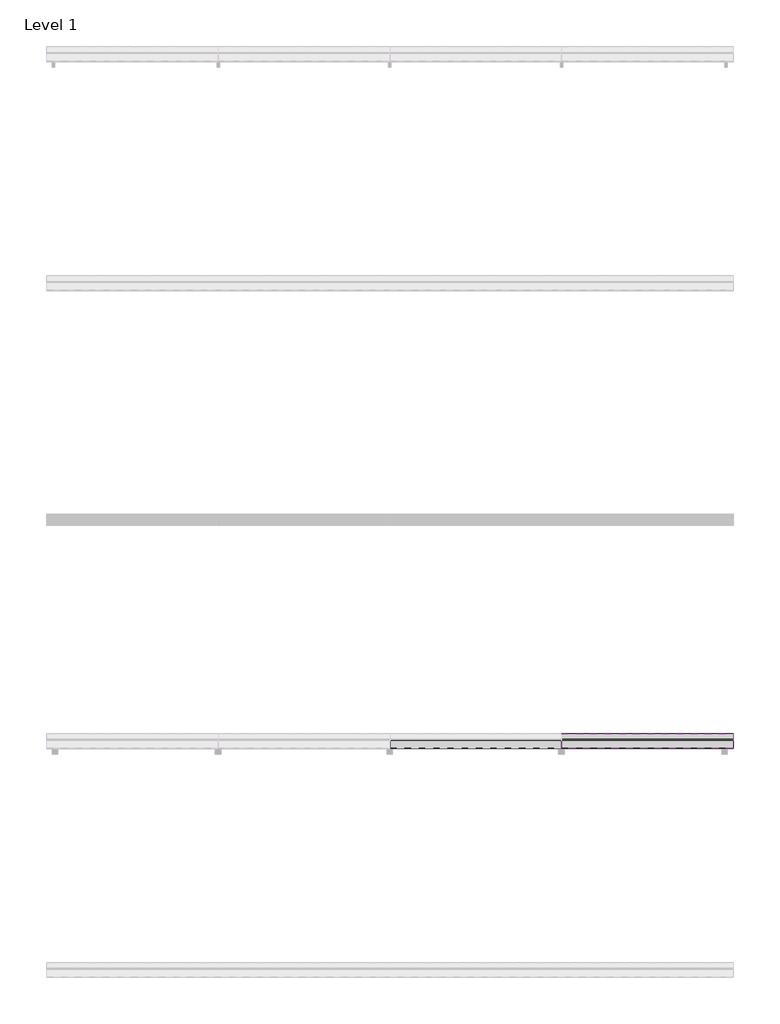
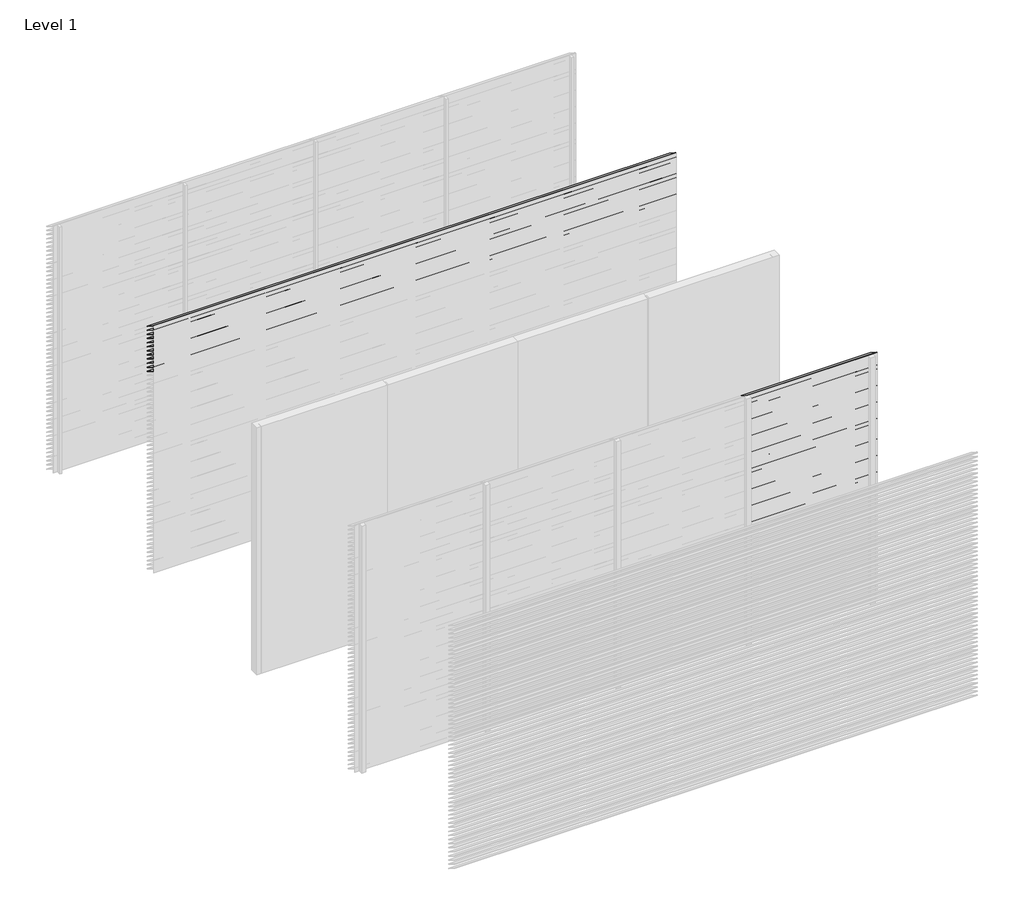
# One storey, part 7 of 13: 96 proxies.
"""IFC4 building model written with IfcOpenShell, lengths in millimetres."""

from ifc_helpers import new_model, si_unit, frame, origin, place, context, project, spatial, polyline, outline, extrude, element, save

model = new_model("IFC4")

# Units and contexts
model_context = context("Model", 3, world=origin())
ifc_project = project(units=[si_unit("LENGTHUNIT", "METRE", prefix="MILLI")], contexts=[model_context])

# Site, building, storey
site = spatial("IfcSite", under=ifc_project)
building = spatial("IfcBuilding", under=site)
storey = spatial("IfcBuildingStorey", under=building, Name="Level 1", Elevation=0.0)

# Proxies
placement = place(None, origin())
element("IfcBuildingElementProxy", 1, Name="Wall Sweeps", at=placement, inside=storey, context=model_context, shape_type="SweptSolid", body=[
    extrude(outline(polyline([(-7995.0, 3000.0), (-7995.0, 2998.0), (-7868.0, 2919.0), (-7868.0, 2913.0), (-7997.0, 2993.2440945), (-7997.0, 3000.0), (-7995.0, 3000.0)])), frame((0.0, 0.0, 0.0), z_axis=(1.0, 0.0, 0.0), x_axis=(0.0, 1.0, 0.0)), (0.0, 0.0, 1.0), 6000.0),
])
element("IfcBuildingElementProxy", 2, Name="Wall Sweeps", at=placement, inside=storey, context=model_context, shape_type="SweptSolid", body=[
    extrude(outline(polyline([(-7995.0, 2950.0), (-7995.0, 2948.0), (-7868.0, 2869.0), (-7868.0, 2863.0), (-7997.0, 2943.2440945), (-7997.0, 2950.0), (-7995.0, 2950.0)])), frame((0.0, 0.0, 0.0), z_axis=(1.0, 0.0, 0.0), x_axis=(0.0, 1.0, 0.0)), (0.0, 0.0, 1.0), 6000.0),
])
element("IfcBuildingElementProxy", 3, Name="Wall Sweeps", at=placement, inside=storey, context=model_context, shape_type="SweptSolid", body=[
    extrude(outline(polyline([(-7995.0, 2900.0), (-7995.0, 2898.0), (-7868.0, 2819.0), (-7868.0, 2813.0), (-7997.0, 2893.2440945), (-7997.0, 2900.0), (-7995.0, 2900.0)])), frame((0.0, 0.0, 0.0), z_axis=(1.0, 0.0, 0.0), x_axis=(0.0, 1.0, 0.0)), (0.0, 0.0, 1.0), 6000.0),
])
element("IfcBuildingElementProxy", 4, Name="Wall Sweeps", at=placement, inside=storey, context=model_context, shape_type="SweptSolid", body=[
    extrude(outline(polyline([(-7995.0, 2850.0), (-7995.0, 2848.0), (-7868.0, 2769.0), (-7868.0, 2763.0), (-7997.0, 2843.2440945), (-7997.0, 2850.0), (-7995.0, 2850.0)])), frame((0.0, 0.0, 0.0), z_axis=(1.0, 0.0, 0.0), x_axis=(0.0, 1.0, 0.0)), (0.0, 0.0, 1.0), 6000.0),
])
element("IfcBuildingElementProxy", 5, Name="Wall Sweeps", at=placement, inside=storey, context=model_context, shape_type="SweptSolid", body=[
    extrude(outline(polyline([(-7995.0, 2800.0), (-7995.0, 2798.0), (-7868.0, 2719.0), (-7868.0, 2713.0), (-7997.0, 2793.2440945), (-7997.0, 2800.0), (-7995.0, 2800.0)])), frame((0.0, 0.0, 0.0), z_axis=(1.0, 0.0, 0.0), x_axis=(0.0, 1.0, 0.0)), (0.0, 0.0, 1.0), 6000.0),
])
element("IfcBuildingElementProxy", 6, Name="Wall Sweeps", at=placement, inside=storey, context=model_context, shape_type="SweptSolid", body=[
    extrude(outline(polyline([(-7995.0, 2750.0), (-7995.0, 2748.0), (-7868.0, 2669.0), (-7868.0, 2663.0), (-7997.0, 2743.2440945), (-7997.0, 2750.0), (-7995.0, 2750.0)])), frame((0.0, 0.0, 0.0), z_axis=(1.0, 0.0, 0.0), x_axis=(0.0, 1.0, 0.0)), (0.0, 0.0, 1.0), 6000.0),
])
element("IfcBuildingElementProxy", 7, Name="Wall Sweeps", at=placement, inside=storey, context=model_context, shape_type="SweptSolid", body=[
    extrude(outline(polyline([(-7995.0, 2700.0), (-7995.0, 2698.0), (-7868.0, 2619.0), (-7868.0, 2613.0), (-7997.0, 2693.2440945), (-7997.0, 2700.0), (-7995.0, 2700.0)])), frame((0.0, 0.0, 0.0), z_axis=(1.0, 0.0, 0.0), x_axis=(0.0, 1.0, 0.0)), (0.0, 0.0, 1.0), 6000.0),
])
element("IfcBuildingElementProxy", 8, Name="Wall Sweeps", at=placement, inside=storey, context=model_context, shape_type="SweptSolid", body=[
    extrude(outline(polyline([(-7995.0, 2650.0), (-7995.0, 2648.0), (-7868.0, 2569.0), (-7868.0, 2563.0), (-7997.0, 2643.2440945), (-7997.0, 2650.0), (-7995.0, 2650.0)])), frame((0.0, 0.0, 0.0), z_axis=(1.0, 0.0, 0.0), x_axis=(0.0, 1.0, 0.0)), (0.0, 0.0, 1.0), 6000.0),
])
element("IfcBuildingElementProxy", 9, Name="Wall Sweeps", at=placement, inside=storey, context=model_context, shape_type="SweptSolid", body=[
    extrude(outline(polyline([(-7995.0, 2600.0), (-7995.0, 2598.0), (-7868.0, 2519.0), (-7868.0, 2513.0), (-7997.0, 2593.2440945), (-7997.0, 2600.0), (-7995.0, 2600.0)])), frame((0.0, 0.0, 0.0), z_axis=(1.0, 0.0, 0.0), x_axis=(0.0, 1.0, 0.0)), (0.0, 0.0, 1.0), 6000.0),
])
element("IfcBuildingElementProxy", 10, Name="Wall Sweeps", at=placement, inside=storey, context=model_context, shape_type="SweptSolid", body=[
    extrude(outline(polyline([(-7995.0, 2550.0), (-7995.0, 2548.0), (-7868.0, 2469.0), (-7868.0, 2463.0), (-7997.0, 2543.2440945), (-7997.0, 2550.0), (-7995.0, 2550.0)])), frame((0.0, 0.0, 0.0), z_axis=(1.0, 0.0, 0.0), x_axis=(0.0, 1.0, 0.0)), (0.0, 0.0, 1.0), 6000.0),
])
element("IfcBuildingElementProxy", 11, Name="Wall Sweeps", at=placement, inside=storey, context=model_context, shape_type="SweptSolid", body=[
    extrude(outline(polyline([(-7995.0, 2500.0), (-7995.0, 2498.0), (-7868.0, 2419.0), (-7868.0, 2413.0), (-7997.0, 2493.2440945), (-7997.0, 2500.0), (-7995.0, 2500.0)])), frame((0.0, 0.0, 0.0), z_axis=(1.0, 0.0, 0.0), x_axis=(0.0, 1.0, 0.0)), (0.0, 0.0, 1.0), 6000.0),
])
element("IfcBuildingElementProxy", 12, Name="Wall Sweeps", at=placement, inside=storey, context=model_context, shape_type="SweptSolid", body=[
    extrude(outline(polyline([(-7995.0, 2450.0), (-7995.0, 2448.0), (-7868.0, 2369.0), (-7868.0, 2363.0), (-7997.0, 2443.2440945), (-7997.0, 2450.0), (-7995.0, 2450.0)])), frame((0.0, 0.0, 0.0), z_axis=(1.0, 0.0, 0.0), x_axis=(0.0, 1.0, 0.0)), (0.0, 0.0, 1.0), 6000.0),
])
element("IfcBuildingElementProxy", 13, Name="Wall Sweeps", at=placement, inside=storey, context=model_context, shape_type="SweptSolid", body=[
    extrude(outline(polyline([(-11995.0, 1200.0), (-11995.0, 1198.0), (-11868.0, 1119.0), (-11868.0, 1113.0), (-11997.0, 1193.2440945), (-11997.0, 1200.0), (-11995.0, 1200.0)])), frame((3000.0, 0.0, 0.0), z_axis=(1.0, 0.0, 0.0), x_axis=(0.0, 1.0, 0.0)), (0.0, 0.0, 1.0), 1500.0),
])
element("IfcBuildingElementProxy", 14, Name="Wall Sweeps", at=placement, inside=storey, context=model_context, shape_type="SweptSolid", body=[
    extrude(outline(polyline([(-11995.0, 1150.0), (-11995.0, 1148.0), (-11868.0, 1069.0), (-11868.0, 1063.0), (-11997.0, 1143.2440945), (-11997.0, 1150.0), (-11995.0, 1150.0)])), frame((3000.0, 0.0, 0.0), z_axis=(1.0, 0.0, 0.0), x_axis=(0.0, 1.0, 0.0)), (0.0, 0.0, 1.0), 1500.0),
])
element("IfcBuildingElementProxy", 15, Name="Wall Sweeps", at=placement, inside=storey, context=model_context, shape_type="SweptSolid", body=[
    extrude(outline(polyline([(-11995.0, 1100.0), (-11995.0, 1098.0), (-11868.0, 1019.0), (-11868.0, 1013.0), (-11997.0, 1093.2440945), (-11997.0, 1100.0), (-11995.0, 1100.0)])), frame((3000.0, 0.0, 0.0), z_axis=(1.0, 0.0, 0.0), x_axis=(0.0, 1.0, 0.0)), (0.0, 0.0, 1.0), 1500.0),
])
element("IfcBuildingElementProxy", 16, Name="Wall Sweeps", at=placement, inside=storey, context=model_context, shape_type="SweptSolid", body=[
    extrude(outline(polyline([(-11995.0, 1050.0), (-11995.0, 1048.0), (-11868.0, 969.0), (-11868.0, 963.0), (-11997.0, 1043.2440945), (-11997.0, 1050.0), (-11995.0, 1050.0)])), frame((3000.0, 0.0, 0.0), z_axis=(1.0, 0.0, 0.0), x_axis=(0.0, 1.0, 0.0)), (0.0, 0.0, 1.0), 1500.0),
])
element("IfcBuildingElementProxy", 17, Name="Wall Sweeps", at=placement, inside=storey, context=model_context, shape_type="SweptSolid", body=[
    extrude(outline(polyline([(-11995.0, 1000.0), (-11995.0, 998.0), (-11868.0, 919.0), (-11868.0, 913.0), (-11997.0, 993.2440945), (-11997.0, 1000.0), (-11995.0, 1000.0)])), frame((3000.0, 0.0, 0.0), z_axis=(1.0, 0.0, 0.0), x_axis=(0.0, 1.0, 0.0)), (0.0, 0.0, 1.0), 1500.0),
])
element("IfcBuildingElementProxy", 18, Name="Wall Sweeps", at=placement, inside=storey, context=model_context, shape_type="SweptSolid", body=[
    extrude(outline(polyline([(-11995.0, 950.0), (-11995.0, 948.0), (-11868.0, 869.0), (-11868.0, 863.0), (-11997.0, 943.2440945), (-11997.0, 950.0), (-11995.0, 950.0)])), frame((3000.0, 0.0, 0.0), z_axis=(1.0, 0.0, 0.0), x_axis=(0.0, 1.0, 0.0)), (0.0, 0.0, 1.0), 1500.0),
])
element("IfcBuildingElementProxy", 19, Name="Wall Sweeps", at=placement, inside=storey, context=model_context, shape_type="SweptSolid", body=[
    extrude(outline(polyline([(-11995.0, 900.0), (-11995.0, 898.0), (-11868.0, 819.0), (-11868.0, 813.0), (-11997.0, 893.2440945), (-11997.0, 900.0), (-11995.0, 900.0)])), frame((3000.0, 0.0, 0.0), z_axis=(1.0, 0.0, 0.0), x_axis=(0.0, 1.0, 0.0)), (0.0, 0.0, 1.0), 1500.0),
])
element("IfcBuildingElementProxy", 20, Name="Wall Sweeps", at=placement, inside=storey, context=model_context, shape_type="SweptSolid", body=[
    extrude(outline(polyline([(-11995.0, 850.0), (-11995.0, 848.0), (-11868.0, 769.0), (-11868.0, 763.0), (-11997.0, 843.2440945), (-11997.0, 850.0), (-11995.0, 850.0)])), frame((3000.0, 0.0, 0.0), z_axis=(1.0, 0.0, 0.0), x_axis=(0.0, 1.0, 0.0)), (0.0, 0.0, 1.0), 1500.0),
])
element("IfcBuildingElementProxy", 21, Name="Wall Sweeps", at=placement, inside=storey, context=model_context, shape_type="SweptSolid", body=[
    extrude(outline(polyline([(-11995.0, 800.0), (-11995.0, 798.0), (-11868.0, 719.0), (-11868.0, 713.0), (-11997.0, 793.2440945), (-11997.0, 800.0), (-11995.0, 800.0)])), frame((3000.0, 0.0, 0.0), z_axis=(1.0, 0.0, 0.0), x_axis=(0.0, 1.0, 0.0)), (0.0, 0.0, 1.0), 1500.0),
])
element("IfcBuildingElementProxy", 22, Name="Wall Sweeps", at=placement, inside=storey, context=model_context, shape_type="SweptSolid", body=[
    extrude(outline(polyline([(-11995.0, 750.0), (-11995.0, 748.0), (-11868.0, 669.0), (-11868.0, 663.0), (-11997.0, 743.2440945), (-11997.0, 750.0), (-11995.0, 750.0)])), frame((3000.0, 0.0, 0.0), z_axis=(1.0, 0.0, 0.0), x_axis=(0.0, 1.0, 0.0)), (0.0, 0.0, 1.0), 1500.0),
])
element("IfcBuildingElementProxy", 23, Name="Wall Sweeps", at=placement, inside=storey, context=model_context, shape_type="SweptSolid", body=[
    extrude(outline(polyline([(-11995.0, 700.0), (-11995.0, 698.0), (-11868.0, 619.0), (-11868.0, 613.0), (-11997.0, 693.2440945), (-11997.0, 700.0), (-11995.0, 700.0)])), frame((3000.0, 0.0, 0.0), z_axis=(1.0, 0.0, 0.0), x_axis=(0.0, 1.0, 0.0)), (0.0, 0.0, 1.0), 1500.0),
])
element("IfcBuildingElementProxy", 24, Name="Wall Sweeps", at=placement, inside=storey, context=model_context, shape_type="SweptSolid", body=[
    extrude(outline(polyline([(-11995.0, 650.0), (-11995.0, 648.0), (-11868.0, 569.0), (-11868.0, 563.0), (-11997.0, 643.2440945), (-11997.0, 650.0), (-11995.0, 650.0)])), frame((3000.0, 0.0, 0.0), z_axis=(1.0, 0.0, 0.0), x_axis=(0.0, 1.0, 0.0)), (0.0, 0.0, 1.0), 1500.0),
])
element("IfcBuildingElementProxy", 25, Name="Wall Sweeps", at=placement, inside=storey, context=model_context, shape_type="SweptSolid", body=[
    extrude(outline(polyline([(-11995.0, 600.0), (-11995.0, 598.0), (-11868.0, 519.0), (-11868.0, 513.0), (-11997.0, 593.2440945), (-11997.0, 600.0), (-11995.0, 600.0)])), frame((3000.0, 0.0, 0.0), z_axis=(1.0, 0.0, 0.0), x_axis=(0.0, 1.0, 0.0)), (0.0, 0.0, 1.0), 1500.0),
])
element("IfcBuildingElementProxy", 26, Name="Wall Sweeps", at=placement, inside=storey, context=model_context, shape_type="SweptSolid", body=[
    extrude(outline(polyline([(-11995.0, 550.0), (-11995.0, 548.0), (-11868.0, 469.0), (-11868.0, 463.0), (-11997.0, 543.2440945), (-11997.0, 550.0), (-11995.0, 550.0)])), frame((3000.0, 0.0, 0.0), z_axis=(1.0, 0.0, 0.0), x_axis=(0.0, 1.0, 0.0)), (0.0, 0.0, 1.0), 1500.0),
])
element("IfcBuildingElementProxy", 27, Name="Wall Sweeps", at=placement, inside=storey, context=model_context, shape_type="SweptSolid", body=[
    extrude(outline(polyline([(-11995.0, 500.0), (-11995.0, 498.0), (-11868.0, 419.0), (-11868.0, 413.0), (-11997.0, 493.2440945), (-11997.0, 500.0), (-11995.0, 500.0)])), frame((3000.0, 0.0, 0.0), z_axis=(1.0, 0.0, 0.0), x_axis=(0.0, 1.0, 0.0)), (0.0, 0.0, 1.0), 1500.0),
])
element("IfcBuildingElementProxy", 28, Name="Wall Sweeps", at=placement, inside=storey, context=model_context, shape_type="SweptSolid", body=[
    extrude(outline(polyline([(-11995.0, 450.0), (-11995.0, 448.0), (-11868.0, 369.0), (-11868.0, 363.0), (-11997.0, 443.2440945), (-11997.0, 450.0), (-11995.0, 450.0)])), frame((3000.0, 0.0, 0.0), z_axis=(1.0, 0.0, 0.0), x_axis=(0.0, 1.0, 0.0)), (0.0, 0.0, 1.0), 1500.0),
])
element("IfcBuildingElementProxy", 29, Name="Wall Sweeps", at=placement, inside=storey, context=model_context, shape_type="SweptSolid", body=[
    extrude(outline(polyline([(-11995.0, 400.0), (-11995.0, 398.0), (-11868.0, 319.0), (-11868.0, 313.0), (-11997.0, 393.2440945), (-11997.0, 400.0), (-11995.0, 400.0)])), frame((3000.0, 0.0, 0.0), z_axis=(1.0, 0.0, 0.0), x_axis=(0.0, 1.0, 0.0)), (0.0, 0.0, 1.0), 1500.0),
])
element("IfcBuildingElementProxy", 30, Name="Wall Sweeps", at=placement, inside=storey, context=model_context, shape_type="SweptSolid", body=[
    extrude(outline(polyline([(-11995.0, 350.0), (-11995.0, 348.0), (-11868.0, 269.0), (-11868.0, 263.0), (-11997.0, 343.2440945), (-11997.0, 350.0), (-11995.0, 350.0)])), frame((3000.0, 0.0, 0.0), z_axis=(1.0, 0.0, 0.0), x_axis=(0.0, 1.0, 0.0)), (0.0, 0.0, 1.0), 1500.0),
])
element("IfcBuildingElementProxy", 31, Name="Wall Sweeps", at=placement, inside=storey, context=model_context, shape_type="SweptSolid", body=[
    extrude(outline(polyline([(-11995.0, 300.0), (-11995.0, 298.0), (-11868.0, 219.0), (-11868.0, 213.0), (-11997.0, 293.2440945), (-11997.0, 300.0), (-11995.0, 300.0)])), frame((3000.0, 0.0, 0.0), z_axis=(1.0, 0.0, 0.0), x_axis=(0.0, 1.0, 0.0)), (0.0, 0.0, 1.0), 1500.0),
])
element("IfcBuildingElementProxy", 32, Name="Wall Sweeps", at=placement, inside=storey, context=model_context, shape_type="SweptSolid", body=[
    extrude(outline(polyline([(-11995.0, 250.0), (-11995.0, 248.0), (-11868.0, 169.0), (-11868.0, 163.0), (-11997.0, 243.2440945), (-11997.0, 250.0), (-11995.0, 250.0)])), frame((3000.0, 0.0, 0.0), z_axis=(1.0, 0.0, 0.0), x_axis=(0.0, 1.0, 0.0)), (0.0, 0.0, 1.0), 1500.0),
])
element("IfcBuildingElementProxy", 33, Name="Wall Sweeps", at=placement, inside=storey, context=model_context, shape_type="SweptSolid", body=[
    extrude(outline(polyline([(-11995.0, 200.0), (-11995.0, 198.0), (-11868.0, 119.0), (-11868.0, 113.0), (-11997.0, 193.2440945), (-11997.0, 200.0), (-11995.0, 200.0)])), frame((3000.0, 0.0, 0.0), z_axis=(1.0, 0.0, 0.0), x_axis=(0.0, 1.0, 0.0)), (0.0, 0.0, 1.0), 1500.0),
])
element("IfcBuildingElementProxy", 34, Name="Wall Sweeps", at=placement, inside=storey, context=model_context, shape_type="SweptSolid", body=[
    extrude(outline(polyline([(-11995.0, 150.0), (-11995.0, 148.0), (-11868.0, 69.0), (-11868.0, 63.0), (-11997.0, 143.2440945), (-11997.0, 150.0), (-11995.0, 150.0)])), frame((3000.0, 0.0, 0.0), z_axis=(1.0, 0.0, 0.0), x_axis=(0.0, 1.0, 0.0)), (0.0, 0.0, 1.0), 1500.0),
])
element("IfcBuildingElementProxy", 35, Name="Wall Sweeps", at=placement, inside=storey, context=model_context, shape_type="SweptSolid", body=[
    extrude(outline(polyline([(-11995.0, 100.0), (-11995.0, 98.0), (-11868.0, 19.0), (-11868.0, 13.0), (-11997.0, 93.2440945), (-11997.0, 100.0), (-11995.0, 100.0)])), frame((3000.0, 0.0, 0.0), z_axis=(1.0, 0.0, 0.0), x_axis=(0.0, 1.0, 0.0)), (0.0, 0.0, 1.0), 1500.0),
])
element("IfcBuildingElementProxy", 36, Name="Wall Sweeps", at=placement, inside=storey, context=model_context, shape_type="SweptSolid", body=[
    extrude(outline(polyline([(-11995.0, 50.0), (-11995.0, 48.0), (-11868.0, -31.0), (-11868.0, -37.0), (-11997.0, 43.2440945), (-11997.0, 50.0), (-11995.0, 50.0)])), frame((3000.0, 0.0, 0.0), z_axis=(1.0, 0.0, 0.0), x_axis=(0.0, 1.0, 0.0)), (0.0, 0.0, 1.0), 1500.0),
])
element("IfcBuildingElementProxy", 37, Name="Wall Sweeps", at=placement, inside=storey, context=model_context, shape_type="SweptSolid", body=[
    extrude(outline(polyline([(-11995.0, 3000.0), (-11995.0, 2998.0), (-11868.0, 2919.0), (-11868.0, 2913.0), (-11997.0, 2993.2440945), (-11997.0, 3000.0), (-11995.0, 3000.0)])), frame((4500.0, 0.0, 0.0), z_axis=(1.0, 0.0, 0.0), x_axis=(0.0, 1.0, 0.0)), (0.0, 0.0, 1.0), 1500.0),
])
element("IfcBuildingElementProxy", 38, Name="Wall Sweeps", at=placement, inside=storey, context=model_context, shape_type="SweptSolid", body=[
    extrude(outline(polyline([(-11995.0, 2950.0), (-11995.0, 2948.0), (-11868.0, 2869.0), (-11868.0, 2863.0), (-11997.0, 2943.2440945), (-11997.0, 2950.0), (-11995.0, 2950.0)])), frame((4500.0, 0.0, 0.0), z_axis=(1.0, 0.0, 0.0), x_axis=(0.0, 1.0, 0.0)), (0.0, 0.0, 1.0), 1500.0),
])
element("IfcBuildingElementProxy", 39, Name="Wall Sweeps", at=placement, inside=storey, context=model_context, shape_type="SweptSolid", body=[
    extrude(outline(polyline([(-11995.0, 2900.0), (-11995.0, 2898.0), (-11868.0, 2819.0), (-11868.0, 2813.0), (-11997.0, 2893.2440945), (-11997.0, 2900.0), (-11995.0, 2900.0)])), frame((4500.0, 0.0, 0.0), z_axis=(1.0, 0.0, 0.0), x_axis=(0.0, 1.0, 0.0)), (0.0, 0.0, 1.0), 1500.0),
])
element("IfcBuildingElementProxy", 40, Name="Wall Sweeps", at=placement, inside=storey, context=model_context, shape_type="SweptSolid", body=[
    extrude(outline(polyline([(-11995.0, 2850.0), (-11995.0, 2848.0), (-11868.0, 2769.0), (-11868.0, 2763.0), (-11997.0, 2843.2440945), (-11997.0, 2850.0), (-11995.0, 2850.0)])), frame((4500.0, 0.0, 0.0), z_axis=(1.0, 0.0, 0.0), x_axis=(0.0, 1.0, 0.0)), (0.0, 0.0, 1.0), 1500.0),
])
element("IfcBuildingElementProxy", 41, Name="Wall Sweeps", at=placement, inside=storey, context=model_context, shape_type="SweptSolid", body=[
    extrude(outline(polyline([(-11995.0, 2800.0), (-11995.0, 2798.0), (-11868.0, 2719.0), (-11868.0, 2713.0), (-11997.0, 2793.2440945), (-11997.0, 2800.0), (-11995.0, 2800.0)])), frame((4500.0, 0.0, 0.0), z_axis=(1.0, 0.0, 0.0), x_axis=(0.0, 1.0, 0.0)), (0.0, 0.0, 1.0), 1500.0),
])
element("IfcBuildingElementProxy", 42, Name="Wall Sweeps", at=placement, inside=storey, context=model_context, shape_type="SweptSolid", body=[
    extrude(outline(polyline([(-11995.0, 2750.0), (-11995.0, 2748.0), (-11868.0, 2669.0), (-11868.0, 2663.0), (-11997.0, 2743.2440945), (-11997.0, 2750.0), (-11995.0, 2750.0)])), frame((4500.0, 0.0, 0.0), z_axis=(1.0, 0.0, 0.0), x_axis=(0.0, 1.0, 0.0)), (0.0, 0.0, 1.0), 1500.0),
])
element("IfcBuildingElementProxy", 43, Name="Wall Sweeps", at=placement, inside=storey, context=model_context, shape_type="SweptSolid", body=[
    extrude(outline(polyline([(-11995.0, 2700.0), (-11995.0, 2698.0), (-11868.0, 2619.0), (-11868.0, 2613.0), (-11997.0, 2693.2440945), (-11997.0, 2700.0), (-11995.0, 2700.0)])), frame((4500.0, 0.0, 0.0), z_axis=(1.0, 0.0, 0.0), x_axis=(0.0, 1.0, 0.0)), (0.0, 0.0, 1.0), 1500.0),
])
element("IfcBuildingElementProxy", 44, Name="Wall Sweeps", at=placement, inside=storey, context=model_context, shape_type="SweptSolid", body=[
    extrude(outline(polyline([(-11995.0, 2650.0), (-11995.0, 2648.0), (-11868.0, 2569.0), (-11868.0, 2563.0), (-11997.0, 2643.2440945), (-11997.0, 2650.0), (-11995.0, 2650.0)])), frame((4500.0, 0.0, 0.0), z_axis=(1.0, 0.0, 0.0), x_axis=(0.0, 1.0, 0.0)), (0.0, 0.0, 1.0), 1500.0),
])
element("IfcBuildingElementProxy", 45, Name="Wall Sweeps", at=placement, inside=storey, context=model_context, shape_type="SweptSolid", body=[
    extrude(outline(polyline([(-11995.0, 2600.0), (-11995.0, 2598.0), (-11868.0, 2519.0), (-11868.0, 2513.0), (-11997.0, 2593.2440945), (-11997.0, 2600.0), (-11995.0, 2600.0)])), frame((4500.0, 0.0, 0.0), z_axis=(1.0, 0.0, 0.0), x_axis=(0.0, 1.0, 0.0)), (0.0, 0.0, 1.0), 1500.0),
])
element("IfcBuildingElementProxy", 46, Name="Wall Sweeps", at=placement, inside=storey, context=model_context, shape_type="SweptSolid", body=[
    extrude(outline(polyline([(-11995.0, 2550.0), (-11995.0, 2548.0), (-11868.0, 2469.0), (-11868.0, 2463.0), (-11997.0, 2543.2440945), (-11997.0, 2550.0), (-11995.0, 2550.0)])), frame((4500.0, 0.0, 0.0), z_axis=(1.0, 0.0, 0.0), x_axis=(0.0, 1.0, 0.0)), (0.0, 0.0, 1.0), 1500.0),
])
element("IfcBuildingElementProxy", 47, Name="Wall Sweeps", at=placement, inside=storey, context=model_context, shape_type="SweptSolid", body=[
    extrude(outline(polyline([(-11995.0, 2500.0), (-11995.0, 2498.0), (-11868.0, 2419.0), (-11868.0, 2413.0), (-11997.0, 2493.2440945), (-11997.0, 2500.0), (-11995.0, 2500.0)])), frame((4500.0, 0.0, 0.0), z_axis=(1.0, 0.0, 0.0), x_axis=(0.0, 1.0, 0.0)), (0.0, 0.0, 1.0), 1500.0),
])
element("IfcBuildingElementProxy", 48, Name="Wall Sweeps", at=placement, inside=storey, context=model_context, shape_type="SweptSolid", body=[
    extrude(outline(polyline([(-11995.0, 2450.0), (-11995.0, 2448.0), (-11868.0, 2369.0), (-11868.0, 2363.0), (-11997.0, 2443.2440945), (-11997.0, 2450.0), (-11995.0, 2450.0)])), frame((4500.0, 0.0, 0.0), z_axis=(1.0, 0.0, 0.0), x_axis=(0.0, 1.0, 0.0)), (0.0, 0.0, 1.0), 1500.0),
])
element("IfcBuildingElementProxy", 49, Name="Wall Sweeps", at=placement, inside=storey, context=model_context, shape_type="SweptSolid", body=[
    extrude(outline(polyline([(-11995.0, 2400.0), (-11995.0, 2398.0), (-11868.0, 2319.0), (-11868.0, 2313.0), (-11997.0, 2393.2440945), (-11997.0, 2400.0), (-11995.0, 2400.0)])), frame((4500.0, 0.0, 0.0), z_axis=(1.0, 0.0, 0.0), x_axis=(0.0, 1.0, 0.0)), (0.0, 0.0, 1.0), 1500.0),
])
element("IfcBuildingElementProxy", 50, Name="Wall Sweeps", at=placement, inside=storey, context=model_context, shape_type="SweptSolid", body=[
    extrude(outline(polyline([(-11995.0, 2350.0), (-11995.0, 2348.0), (-11868.0, 2269.0), (-11868.0, 2263.0), (-11997.0, 2343.2440945), (-11997.0, 2350.0), (-11995.0, 2350.0)])), frame((4500.0, 0.0, 0.0), z_axis=(1.0, 0.0, 0.0), x_axis=(0.0, 1.0, 0.0)), (0.0, 0.0, 1.0), 1500.0),
])
element("IfcBuildingElementProxy", 51, Name="Wall Sweeps", at=placement, inside=storey, context=model_context, shape_type="SweptSolid", body=[
    extrude(outline(polyline([(-11995.0, 2300.0), (-11995.0, 2298.0), (-11868.0, 2219.0), (-11868.0, 2213.0), (-11997.0, 2293.2440945), (-11997.0, 2300.0), (-11995.0, 2300.0)])), frame((4500.0, 0.0, 0.0), z_axis=(1.0, 0.0, 0.0), x_axis=(0.0, 1.0, 0.0)), (0.0, 0.0, 1.0), 1500.0),
])
element("IfcBuildingElementProxy", 52, Name="Wall Sweeps", at=placement, inside=storey, context=model_context, shape_type="SweptSolid", body=[
    extrude(outline(polyline([(-11995.0, 2250.0), (-11995.0, 2248.0), (-11868.0, 2169.0), (-11868.0, 2163.0), (-11997.0, 2243.2440945), (-11997.0, 2250.0), (-11995.0, 2250.0)])), frame((4500.0, 0.0, 0.0), z_axis=(1.0, 0.0, 0.0), x_axis=(0.0, 1.0, 0.0)), (0.0, 0.0, 1.0), 1500.0),
])
element("IfcBuildingElementProxy", 53, Name="Wall Sweeps", at=placement, inside=storey, context=model_context, shape_type="SweptSolid", body=[
    extrude(outline(polyline([(-11995.0, 2200.0), (-11995.0, 2198.0), (-11868.0, 2119.0), (-11868.0, 2113.0), (-11997.0, 2193.2440945), (-11997.0, 2200.0), (-11995.0, 2200.0)])), frame((4500.0, 0.0, 0.0), z_axis=(1.0, 0.0, 0.0), x_axis=(0.0, 1.0, 0.0)), (0.0, 0.0, 1.0), 1500.0),
])
element("IfcBuildingElementProxy", 54, Name="Wall Sweeps", at=placement, inside=storey, context=model_context, shape_type="SweptSolid", body=[
    extrude(outline(polyline([(-11995.0, 2150.0), (-11995.0, 2148.0), (-11868.0, 2069.0), (-11868.0, 2063.0), (-11997.0, 2143.2440945), (-11997.0, 2150.0), (-11995.0, 2150.0)])), frame((4500.0, 0.0, 0.0), z_axis=(1.0, 0.0, 0.0), x_axis=(0.0, 1.0, 0.0)), (0.0, 0.0, 1.0), 1500.0),
])
element("IfcBuildingElementProxy", 55, Name="Wall Sweeps", at=placement, inside=storey, context=model_context, shape_type="SweptSolid", body=[
    extrude(outline(polyline([(-11995.0, 2100.0), (-11995.0, 2098.0), (-11868.0, 2019.0), (-11868.0, 2013.0), (-11997.0, 2093.2440945), (-11997.0, 2100.0), (-11995.0, 2100.0)])), frame((4500.0, 0.0, 0.0), z_axis=(1.0, 0.0, 0.0), x_axis=(0.0, 1.0, 0.0)), (0.0, 0.0, 1.0), 1500.0),
])
element("IfcBuildingElementProxy", 56, Name="Wall Sweeps", at=placement, inside=storey, context=model_context, shape_type="SweptSolid", body=[
    extrude(outline(polyline([(-11995.0, 2050.0), (-11995.0, 2048.0), (-11868.0, 1969.0), (-11868.0, 1963.0), (-11997.0, 2043.2440945), (-11997.0, 2050.0), (-11995.0, 2050.0)])), frame((4500.0, 0.0, 0.0), z_axis=(1.0, 0.0, 0.0), x_axis=(0.0, 1.0, 0.0)), (0.0, 0.0, 1.0), 1500.0),
])
element("IfcBuildingElementProxy", 57, Name="Wall Sweeps", at=placement, inside=storey, context=model_context, shape_type="SweptSolid", body=[
    extrude(outline(polyline([(-11995.0, 2000.0), (-11995.0, 1998.0), (-11868.0, 1919.0), (-11868.0, 1913.0), (-11997.0, 1993.2440945), (-11997.0, 2000.0), (-11995.0, 2000.0)])), frame((4500.0, 0.0, 0.0), z_axis=(1.0, 0.0, 0.0), x_axis=(0.0, 1.0, 0.0)), (0.0, 0.0, 1.0), 1500.0),
])
element("IfcBuildingElementProxy", 58, Name="Wall Sweeps", at=placement, inside=storey, context=model_context, shape_type="SweptSolid", body=[
    extrude(outline(polyline([(-11995.0, 1950.0), (-11995.0, 1948.0), (-11868.0, 1869.0), (-11868.0, 1863.0), (-11997.0, 1943.2440945), (-11997.0, 1950.0), (-11995.0, 1950.0)])), frame((4500.0, 0.0, 0.0), z_axis=(1.0, 0.0, 0.0), x_axis=(0.0, 1.0, 0.0)), (0.0, 0.0, 1.0), 1500.0),
])
element("IfcBuildingElementProxy", 59, Name="Wall Sweeps", at=placement, inside=storey, context=model_context, shape_type="SweptSolid", body=[
    extrude(outline(polyline([(-11995.0, 1900.0), (-11995.0, 1898.0), (-11868.0, 1819.0), (-11868.0, 1813.0), (-11997.0, 1893.2440945), (-11997.0, 1900.0), (-11995.0, 1900.0)])), frame((4500.0, 0.0, 0.0), z_axis=(1.0, 0.0, 0.0), x_axis=(0.0, 1.0, 0.0)), (0.0, 0.0, 1.0), 1500.0),
])
element("IfcBuildingElementProxy", 60, Name="Wall Sweeps", at=placement, inside=storey, context=model_context, shape_type="SweptSolid", body=[
    extrude(outline(polyline([(-11995.0, 1850.0), (-11995.0, 1848.0), (-11868.0, 1769.0), (-11868.0, 1763.0), (-11997.0, 1843.2440945), (-11997.0, 1850.0), (-11995.0, 1850.0)])), frame((4500.0, 0.0, 0.0), z_axis=(1.0, 0.0, 0.0), x_axis=(0.0, 1.0, 0.0)), (0.0, 0.0, 1.0), 1500.0),
])
element("IfcBuildingElementProxy", 61, Name="Wall Sweeps", at=placement, inside=storey, context=model_context, shape_type="SweptSolid", body=[
    extrude(outline(polyline([(-11995.0, 1800.0), (-11995.0, 1798.0), (-11868.0, 1719.0), (-11868.0, 1713.0), (-11997.0, 1793.2440945), (-11997.0, 1800.0), (-11995.0, 1800.0)])), frame((4500.0, 0.0, 0.0), z_axis=(1.0, 0.0, 0.0), x_axis=(0.0, 1.0, 0.0)), (0.0, 0.0, 1.0), 1500.0),
])
element("IfcBuildingElementProxy", 62, Name="Wall Sweeps", at=placement, inside=storey, context=model_context, shape_type="SweptSolid", body=[
    extrude(outline(polyline([(-11995.0, 1750.0), (-11995.0, 1748.0), (-11868.0, 1669.0), (-11868.0, 1663.0), (-11997.0, 1743.2440945), (-11997.0, 1750.0), (-11995.0, 1750.0)])), frame((4500.0, 0.0, 0.0), z_axis=(1.0, 0.0, 0.0), x_axis=(0.0, 1.0, 0.0)), (0.0, 0.0, 1.0), 1500.0),
])
element("IfcBuildingElementProxy", 63, Name="Wall Sweeps", at=placement, inside=storey, context=model_context, shape_type="SweptSolid", body=[
    extrude(outline(polyline([(-11995.0, 1700.0), (-11995.0, 1698.0), (-11868.0, 1619.0), (-11868.0, 1613.0), (-11997.0, 1693.2440945), (-11997.0, 1700.0), (-11995.0, 1700.0)])), frame((4500.0, 0.0, 0.0), z_axis=(1.0, 0.0, 0.0), x_axis=(0.0, 1.0, 0.0)), (0.0, 0.0, 1.0), 1500.0),
])
element("IfcBuildingElementProxy", 64, Name="Wall Sweeps", at=placement, inside=storey, context=model_context, shape_type="SweptSolid", body=[
    extrude(outline(polyline([(-11995.0, 1650.0), (-11995.0, 1648.0), (-11868.0, 1569.0), (-11868.0, 1563.0), (-11997.0, 1643.2440945), (-11997.0, 1650.0), (-11995.0, 1650.0)])), frame((4500.0, 0.0, 0.0), z_axis=(1.0, 0.0, 0.0), x_axis=(0.0, 1.0, 0.0)), (0.0, 0.0, 1.0), 1500.0),
])
element("IfcBuildingElementProxy", 65, Name="Wall Sweeps", at=placement, inside=storey, context=model_context, shape_type="SweptSolid", body=[
    extrude(outline(polyline([(-11995.0, 1600.0), (-11995.0, 1598.0), (-11868.0, 1519.0), (-11868.0, 1513.0), (-11997.0, 1593.2440945), (-11997.0, 1600.0), (-11995.0, 1600.0)])), frame((4500.0, 0.0, 0.0), z_axis=(1.0, 0.0, 0.0), x_axis=(0.0, 1.0, 0.0)), (0.0, 0.0, 1.0), 1500.0),
])
element("IfcBuildingElementProxy", 66, Name="Wall Sweeps", at=placement, inside=storey, context=model_context, shape_type="SweptSolid", body=[
    extrude(outline(polyline([(-11995.0, 1550.0), (-11995.0, 1548.0), (-11868.0, 1469.0), (-11868.0, 1463.0), (-11997.0, 1543.2440945), (-11997.0, 1550.0), (-11995.0, 1550.0)])), frame((4500.0, 0.0, 0.0), z_axis=(1.0, 0.0, 0.0), x_axis=(0.0, 1.0, 0.0)), (0.0, 0.0, 1.0), 1500.0),
])
element("IfcBuildingElementProxy", 67, Name="Wall Sweeps", at=placement, inside=storey, context=model_context, shape_type="SweptSolid", body=[
    extrude(outline(polyline([(-11995.0, 1500.0), (-11995.0, 1498.0), (-11868.0, 1419.0), (-11868.0, 1413.0), (-11997.0, 1493.2440945), (-11997.0, 1500.0), (-11995.0, 1500.0)])), frame((4500.0, 0.0, 0.0), z_axis=(1.0, 0.0, 0.0), x_axis=(0.0, 1.0, 0.0)), (0.0, 0.0, 1.0), 1500.0),
])
element("IfcBuildingElementProxy", 68, Name="Wall Sweeps", at=placement, inside=storey, context=model_context, shape_type="SweptSolid", body=[
    extrude(outline(polyline([(-11995.0, 1450.0), (-11995.0, 1448.0), (-11868.0, 1369.0), (-11868.0, 1363.0), (-11997.0, 1443.2440945), (-11997.0, 1450.0), (-11995.0, 1450.0)])), frame((4500.0, 0.0, 0.0), z_axis=(1.0, 0.0, 0.0), x_axis=(0.0, 1.0, 0.0)), (0.0, 0.0, 1.0), 1500.0),
])
element("IfcBuildingElementProxy", 69, Name="Wall Sweeps", at=placement, inside=storey, context=model_context, shape_type="SweptSolid", body=[
    extrude(outline(polyline([(-11995.0, 1400.0), (-11995.0, 1398.0), (-11868.0, 1319.0), (-11868.0, 1313.0), (-11997.0, 1393.2440945), (-11997.0, 1400.0), (-11995.0, 1400.0)])), frame((4500.0, 0.0, 0.0), z_axis=(1.0, 0.0, 0.0), x_axis=(0.0, 1.0, 0.0)), (0.0, 0.0, 1.0), 1500.0),
])
element("IfcBuildingElementProxy", 70, Name="Wall Sweeps", at=placement, inside=storey, context=model_context, shape_type="SweptSolid", body=[
    extrude(outline(polyline([(-11995.0, 1350.0), (-11995.0, 1348.0), (-11868.0, 1269.0), (-11868.0, 1263.0), (-11997.0, 1343.2440945), (-11997.0, 1350.0), (-11995.0, 1350.0)])), frame((4500.0, 0.0, 0.0), z_axis=(1.0, 0.0, 0.0), x_axis=(0.0, 1.0, 0.0)), (0.0, 0.0, 1.0), 1500.0),
])
element("IfcBuildingElementProxy", 71, Name="Wall Sweeps", at=placement, inside=storey, context=model_context, shape_type="SweptSolid", body=[
    extrude(outline(polyline([(-11995.0, 1300.0), (-11995.0, 1298.0), (-11868.0, 1219.0), (-11868.0, 1213.0), (-11997.0, 1293.2440945), (-11997.0, 1300.0), (-11995.0, 1300.0)])), frame((4500.0, 0.0, 0.0), z_axis=(1.0, 0.0, 0.0), x_axis=(0.0, 1.0, 0.0)), (0.0, 0.0, 1.0), 1500.0),
])
element("IfcBuildingElementProxy", 72, Name="Wall Sweeps", at=placement, inside=storey, context=model_context, shape_type="SweptSolid", body=[
    extrude(outline(polyline([(-11995.0, 1250.0), (-11995.0, 1248.0), (-11868.0, 1169.0), (-11868.0, 1163.0), (-11997.0, 1243.2440945), (-11997.0, 1250.0), (-11995.0, 1250.0)])), frame((4500.0, 0.0, 0.0), z_axis=(1.0, 0.0, 0.0), x_axis=(0.0, 1.0, 0.0)), (0.0, 0.0, 1.0), 1500.0),
])
element("IfcBuildingElementProxy", 73, Name="Wall Sweeps", at=placement, inside=storey, context=model_context, shape_type="SweptSolid", body=[
    extrude(outline(polyline([(-11995.0, 1200.0), (-11995.0, 1198.0), (-11868.0, 1119.0), (-11868.0, 1113.0), (-11997.0, 1193.2440945), (-11997.0, 1200.0), (-11995.0, 1200.0)])), frame((4500.0, 0.0, 0.0), z_axis=(1.0, 0.0, 0.0), x_axis=(0.0, 1.0, 0.0)), (0.0, 0.0, 1.0), 1500.0),
])
element("IfcBuildingElementProxy", 74, Name="Wall Sweeps", at=placement, inside=storey, context=model_context, shape_type="SweptSolid", body=[
    extrude(outline(polyline([(-11995.0, 1150.0), (-11995.0, 1148.0), (-11868.0, 1069.0), (-11868.0, 1063.0), (-11997.0, 1143.2440945), (-11997.0, 1150.0), (-11995.0, 1150.0)])), frame((4500.0, 0.0, 0.0), z_axis=(1.0, 0.0, 0.0), x_axis=(0.0, 1.0, 0.0)), (0.0, 0.0, 1.0), 1500.0),
])
element("IfcBuildingElementProxy", 75, Name="Wall Sweeps", at=placement, inside=storey, context=model_context, shape_type="SweptSolid", body=[
    extrude(outline(polyline([(-11995.0, 1100.0), (-11995.0, 1098.0), (-11868.0, 1019.0), (-11868.0, 1013.0), (-11997.0, 1093.2440945), (-11997.0, 1100.0), (-11995.0, 1100.0)])), frame((4500.0, 0.0, 0.0), z_axis=(1.0, 0.0, 0.0), x_axis=(0.0, 1.0, 0.0)), (0.0, 0.0, 1.0), 1500.0),
])
element("IfcBuildingElementProxy", 76, Name="Wall Sweeps", at=placement, inside=storey, context=model_context, shape_type="SweptSolid", body=[
    extrude(outline(polyline([(-11995.0, 1050.0), (-11995.0, 1048.0), (-11868.0, 969.0), (-11868.0, 963.0), (-11997.0, 1043.2440945), (-11997.0, 1050.0), (-11995.0, 1050.0)])), frame((4500.0, 0.0, 0.0), z_axis=(1.0, 0.0, 0.0), x_axis=(0.0, 1.0, 0.0)), (0.0, 0.0, 1.0), 1500.0),
])
element("IfcBuildingElementProxy", 77, Name="Wall Sweeps", at=placement, inside=storey, context=model_context, shape_type="SweptSolid", body=[
    extrude(outline(polyline([(-11995.0, 1000.0), (-11995.0, 998.0), (-11868.0, 919.0), (-11868.0, 913.0), (-11997.0, 993.2440945), (-11997.0, 1000.0), (-11995.0, 1000.0)])), frame((4500.0, 0.0, 0.0), z_axis=(1.0, 0.0, 0.0), x_axis=(0.0, 1.0, 0.0)), (0.0, 0.0, 1.0), 1500.0),
])
element("IfcBuildingElementProxy", 78, Name="Wall Sweeps", at=placement, inside=storey, context=model_context, shape_type="SweptSolid", body=[
    extrude(outline(polyline([(-11995.0, 950.0), (-11995.0, 948.0), (-11868.0, 869.0), (-11868.0, 863.0), (-11997.0, 943.2440945), (-11997.0, 950.0), (-11995.0, 950.0)])), frame((4500.0, 0.0, 0.0), z_axis=(1.0, 0.0, 0.0), x_axis=(0.0, 1.0, 0.0)), (0.0, 0.0, 1.0), 1500.0),
])
element("IfcBuildingElementProxy", 79, Name="Wall Sweeps", at=placement, inside=storey, context=model_context, shape_type="SweptSolid", body=[
    extrude(outline(polyline([(-11995.0, 900.0), (-11995.0, 898.0), (-11868.0, 819.0), (-11868.0, 813.0), (-11997.0, 893.2440945), (-11997.0, 900.0), (-11995.0, 900.0)])), frame((4500.0, 0.0, 0.0), z_axis=(1.0, 0.0, 0.0), x_axis=(0.0, 1.0, 0.0)), (0.0, 0.0, 1.0), 1500.0),
])
element("IfcBuildingElementProxy", 80, Name="Wall Sweeps", at=placement, inside=storey, context=model_context, shape_type="SweptSolid", body=[
    extrude(outline(polyline([(-11995.0, 850.0), (-11995.0, 848.0), (-11868.0, 769.0), (-11868.0, 763.0), (-11997.0, 843.2440945), (-11997.0, 850.0), (-11995.0, 850.0)])), frame((4500.0, 0.0, 0.0), z_axis=(1.0, 0.0, 0.0), x_axis=(0.0, 1.0, 0.0)), (0.0, 0.0, 1.0), 1500.0),
])
element("IfcBuildingElementProxy", 81, Name="Wall Sweeps", at=placement, inside=storey, context=model_context, shape_type="SweptSolid", body=[
    extrude(outline(polyline([(-11995.0, 800.0), (-11995.0, 798.0), (-11868.0, 719.0), (-11868.0, 713.0), (-11997.0, 793.2440945), (-11997.0, 800.0), (-11995.0, 800.0)])), frame((4500.0, 0.0, 0.0), z_axis=(1.0, 0.0, 0.0), x_axis=(0.0, 1.0, 0.0)), (0.0, 0.0, 1.0), 1500.0),
])
element("IfcBuildingElementProxy", 82, Name="Wall Sweeps", at=placement, inside=storey, context=model_context, shape_type="SweptSolid", body=[
    extrude(outline(polyline([(-11995.0, 750.0), (-11995.0, 748.0), (-11868.0, 669.0), (-11868.0, 663.0), (-11997.0, 743.2440945), (-11997.0, 750.0), (-11995.0, 750.0)])), frame((4500.0, 0.0, 0.0), z_axis=(1.0, 0.0, 0.0), x_axis=(0.0, 1.0, 0.0)), (0.0, 0.0, 1.0), 1500.0),
])
element("IfcBuildingElementProxy", 83, Name="Wall Sweeps", at=placement, inside=storey, context=model_context, shape_type="SweptSolid", body=[
    extrude(outline(polyline([(-11995.0, 700.0), (-11995.0, 698.0), (-11868.0, 619.0), (-11868.0, 613.0), (-11997.0, 693.2440945), (-11997.0, 700.0), (-11995.0, 700.0)])), frame((4500.0, 0.0, 0.0), z_axis=(1.0, 0.0, 0.0), x_axis=(0.0, 1.0, 0.0)), (0.0, 0.0, 1.0), 1500.0),
])
element("IfcBuildingElementProxy", 84, Name="Wall Sweeps", at=placement, inside=storey, context=model_context, shape_type="SweptSolid", body=[
    extrude(outline(polyline([(-11995.0, 650.0), (-11995.0, 648.0), (-11868.0, 569.0), (-11868.0, 563.0), (-11997.0, 643.2440945), (-11997.0, 650.0), (-11995.0, 650.0)])), frame((4500.0, 0.0, 0.0), z_axis=(1.0, 0.0, 0.0), x_axis=(0.0, 1.0, 0.0)), (0.0, 0.0, 1.0), 1500.0),
])
element("IfcBuildingElementProxy", 85, Name="Wall Sweeps", at=placement, inside=storey, context=model_context, shape_type="SweptSolid", body=[
    extrude(outline(polyline([(-11995.0, 600.0), (-11995.0, 598.0), (-11868.0, 519.0), (-11868.0, 513.0), (-11997.0, 593.2440945), (-11997.0, 600.0), (-11995.0, 600.0)])), frame((4500.0, 0.0, 0.0), z_axis=(1.0, 0.0, 0.0), x_axis=(0.0, 1.0, 0.0)), (0.0, 0.0, 1.0), 1500.0),
])
element("IfcBuildingElementProxy", 86, Name="Wall Sweeps", at=placement, inside=storey, context=model_context, shape_type="SweptSolid", body=[
    extrude(outline(polyline([(-11995.0, 550.0), (-11995.0, 548.0), (-11868.0, 469.0), (-11868.0, 463.0), (-11997.0, 543.2440945), (-11997.0, 550.0), (-11995.0, 550.0)])), frame((4500.0, 0.0, 0.0), z_axis=(1.0, 0.0, 0.0), x_axis=(0.0, 1.0, 0.0)), (0.0, 0.0, 1.0), 1500.0),
])
element("IfcBuildingElementProxy", 87, Name="Wall Sweeps", at=placement, inside=storey, context=model_context, shape_type="SweptSolid", body=[
    extrude(outline(polyline([(-11995.0, 500.0), (-11995.0, 498.0), (-11868.0, 419.0), (-11868.0, 413.0), (-11997.0, 493.2440945), (-11997.0, 500.0), (-11995.0, 500.0)])), frame((4500.0, 0.0, 0.0), z_axis=(1.0, 0.0, 0.0), x_axis=(0.0, 1.0, 0.0)), (0.0, 0.0, 1.0), 1500.0),
])
element("IfcBuildingElementProxy", 88, Name="Wall Sweeps", at=placement, inside=storey, context=model_context, shape_type="SweptSolid", body=[
    extrude(outline(polyline([(-11995.0, 450.0), (-11995.0, 448.0), (-11868.0, 369.0), (-11868.0, 363.0), (-11997.0, 443.2440945), (-11997.0, 450.0), (-11995.0, 450.0)])), frame((4500.0, 0.0, 0.0), z_axis=(1.0, 0.0, 0.0), x_axis=(0.0, 1.0, 0.0)), (0.0, 0.0, 1.0), 1500.0),
])
element("IfcBuildingElementProxy", 89, Name="Wall Sweeps", at=placement, inside=storey, context=model_context, shape_type="SweptSolid", body=[
    extrude(outline(polyline([(-11995.0, 400.0), (-11995.0, 398.0), (-11868.0, 319.0), (-11868.0, 313.0), (-11997.0, 393.2440945), (-11997.0, 400.0), (-11995.0, 400.0)])), frame((4500.0, 0.0, 0.0), z_axis=(1.0, 0.0, 0.0), x_axis=(0.0, 1.0, 0.0)), (0.0, 0.0, 1.0), 1500.0),
])
element("IfcBuildingElementProxy", 90, Name="Wall Sweeps", at=placement, inside=storey, context=model_context, shape_type="SweptSolid", body=[
    extrude(outline(polyline([(-11995.0, 350.0), (-11995.0, 348.0), (-11868.0, 269.0), (-11868.0, 263.0), (-11997.0, 343.2440945), (-11997.0, 350.0), (-11995.0, 350.0)])), frame((4500.0, 0.0, 0.0), z_axis=(1.0, 0.0, 0.0), x_axis=(0.0, 1.0, 0.0)), (0.0, 0.0, 1.0), 1500.0),
])
element("IfcBuildingElementProxy", 91, Name="Wall Sweeps", at=placement, inside=storey, context=model_context, shape_type="SweptSolid", body=[
    extrude(outline(polyline([(-11995.0, 300.0), (-11995.0, 298.0), (-11868.0, 219.0), (-11868.0, 213.0), (-11997.0, 293.2440945), (-11997.0, 300.0), (-11995.0, 300.0)])), frame((4500.0, 0.0, 0.0), z_axis=(1.0, 0.0, 0.0), x_axis=(0.0, 1.0, 0.0)), (0.0, 0.0, 1.0), 1500.0),
])
element("IfcBuildingElementProxy", 92, Name="Wall Sweeps", at=placement, inside=storey, context=model_context, shape_type="SweptSolid", body=[
    extrude(outline(polyline([(-11995.0, 250.0), (-11995.0, 248.0), (-11868.0, 169.0), (-11868.0, 163.0), (-11997.0, 243.2440945), (-11997.0, 250.0), (-11995.0, 250.0)])), frame((4500.0, 0.0, 0.0), z_axis=(1.0, 0.0, 0.0), x_axis=(0.0, 1.0, 0.0)), (0.0, 0.0, 1.0), 1500.0),
])
element("IfcBuildingElementProxy", 93, Name="Wall Sweeps", at=placement, inside=storey, context=model_context, shape_type="SweptSolid", body=[
    extrude(outline(polyline([(-11995.0, 200.0), (-11995.0, 198.0), (-11868.0, 119.0), (-11868.0, 113.0), (-11997.0, 193.2440945), (-11997.0, 200.0), (-11995.0, 200.0)])), frame((4500.0, 0.0, 0.0), z_axis=(1.0, 0.0, 0.0), x_axis=(0.0, 1.0, 0.0)), (0.0, 0.0, 1.0), 1500.0),
])
element("IfcBuildingElementProxy", 94, Name="Wall Sweeps", at=placement, inside=storey, context=model_context, shape_type="SweptSolid", body=[
    extrude(outline(polyline([(-11995.0, 150.0), (-11995.0, 148.0), (-11868.0, 69.0), (-11868.0, 63.0), (-11997.0, 143.2440945), (-11997.0, 150.0), (-11995.0, 150.0)])), frame((4500.0, 0.0, 0.0), z_axis=(1.0, 0.0, 0.0), x_axis=(0.0, 1.0, 0.0)), (0.0, 0.0, 1.0), 1500.0),
])
element("IfcBuildingElementProxy", 95, Name="Wall Sweeps", at=placement, inside=storey, context=model_context, shape_type="SweptSolid", body=[
    extrude(outline(polyline([(-11995.0, 100.0), (-11995.0, 98.0), (-11868.0, 19.0), (-11868.0, 13.0), (-11997.0, 93.2440945), (-11997.0, 100.0), (-11995.0, 100.0)])), frame((4500.0, 0.0, 0.0), z_axis=(1.0, 0.0, 0.0), x_axis=(0.0, 1.0, 0.0)), (0.0, 0.0, 1.0), 1500.0),
])
element("IfcBuildingElementProxy", 96, Name="Wall Sweeps", at=placement, inside=storey, context=model_context, shape_type="SweptSolid", body=[
    extrude(outline(polyline([(-11995.0, 50.0), (-11995.0, 48.0), (-11868.0, -31.0), (-11868.0, -37.0), (-11997.0, 43.2440945), (-11997.0, 50.0), (-11995.0, 50.0)])), frame((4500.0, 0.0, 0.0), z_axis=(1.0, 0.0, 0.0), x_axis=(0.0, 1.0, 0.0)), (0.0, 0.0, 1.0), 1500.0),
])

save(model, "model.ifc")
